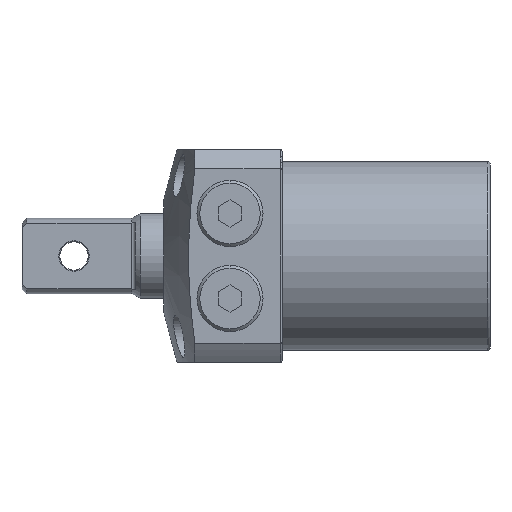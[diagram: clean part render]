
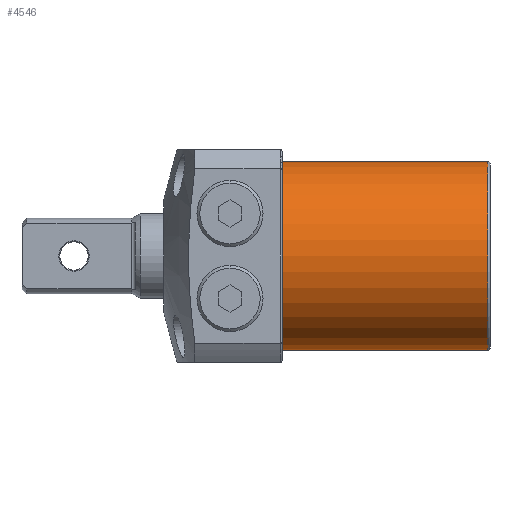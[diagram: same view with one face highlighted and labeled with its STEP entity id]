
A CAD part, left-side view. The second image highlights one B-rep face of the part: STEP entity #4546.
In plain terms, the highlighted cylindrical face has radius 20 mm (diameter 40 mm), a partial arc.
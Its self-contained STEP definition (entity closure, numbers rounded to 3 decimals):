
#76 = VERTEX_POINT ( 'NONE', #3670 ) ;
#147 = FACE_OUTER_BOUND ( 'NONE', #1612, .T. ) ;
#199 = ORIENTED_EDGE ( 'NONE', *, *, #1699, .T. ) ;
#244 = EDGE_CURVE ( 'NONE', #478, #76, #646, .T. ) ;
#270 = DIRECTION ( 'NONE',  ( 0., 0., 1. ) ) ;
#378 = CARTESIAN_POINT ( 'NONE',  ( 0., 0., 0. ) ) ;
#419 = LINE ( 'NONE', #1037, #3897 ) ;
#478 = VERTEX_POINT ( 'NONE', #4934 ) ;
#532 = CIRCLE ( 'NONE', #3708, 20. ) ;
#646 = LINE ( 'NONE', #734, #788 ) ;
#653 = CARTESIAN_POINT ( 'NONE',  ( 43.5, 0., -20. ) ) ;
#711 = DIRECTION ( 'NONE',  ( -1., 0., 0. ) ) ;
#734 = CARTESIAN_POINT ( 'NONE',  ( 46.5, 0., 20. ) ) ;
#788 = VECTOR ( 'NONE', #5501, 1000. ) ;
#817 = DIRECTION ( 'NONE',  ( 0., 0., -1. ) ) ;
#1037 = CARTESIAN_POINT ( 'NONE',  ( 46.5, 0., -20. ) ) ;
#1389 = ORIENTED_EDGE ( 'NONE', *, *, #1412, .T. ) ;
#1412 = EDGE_CURVE ( 'NONE', #5118, #478, #532, .T. ) ;
#1612 = EDGE_LOOP ( 'NONE', ( #5258, #1389, #2906, #199 ) ) ;
#1699 = EDGE_CURVE ( 'NONE', #76, #2904, #3055, .T. ) ;
#2836 = CARTESIAN_POINT ( 'NONE',  ( 0., 0., -20. ) ) ;
#2904 = VERTEX_POINT ( 'NONE', #2836 ) ;
#2906 = ORIENTED_EDGE ( 'NONE', *, *, #244, .T. ) ;
#3055 = CIRCLE ( 'NONE', #4813, 20. ) ;
#3320 = CARTESIAN_POINT ( 'NONE',  ( 43.5, 0., 0. ) ) ;
#3428 = DIRECTION ( 'NONE',  ( 1., 0., 0. ) ) ;
#3505 = AXIS2_PLACEMENT_3D ( 'NONE', #3763, #5050, #270 ) ;
#3670 = CARTESIAN_POINT ( 'NONE',  ( 0., 0., 20. ) ) ;
#3708 = AXIS2_PLACEMENT_3D ( 'NONE', #3320, #711, #3754 ) ;
#3754 = DIRECTION ( 'NONE',  ( 0., 0., -1. ) ) ;
#3763 = CARTESIAN_POINT ( 'NONE',  ( 46.5, 0., 0. ) ) ;
#3897 = VECTOR ( 'NONE', #5381, 1000. ) ;
#4546 = ADVANCED_FACE ( 'NONE', ( #147 ), #5052, .T. ) ;
#4813 = AXIS2_PLACEMENT_3D ( 'NONE', #378, #3428, #817 ) ;
#4934 = CARTESIAN_POINT ( 'NONE',  ( 43.5, 0., 20. ) ) ;
#5050 = DIRECTION ( 'NONE',  ( -1., 0., 0. ) ) ;
#5052 = CYLINDRICAL_SURFACE ( 'NONE', #3505, 20. ) ;
#5118 = VERTEX_POINT ( 'NONE', #653 ) ;
#5213 = EDGE_CURVE ( 'NONE', #5118, #2904, #419, .T. ) ;
#5258 = ORIENTED_EDGE ( 'NONE', *, *, #5213, .F. ) ;
#5381 = DIRECTION ( 'NONE',  ( -1., 0., 0. ) ) ;
#5501 = DIRECTION ( 'NONE',  ( -1., 0., 0. ) ) ;
